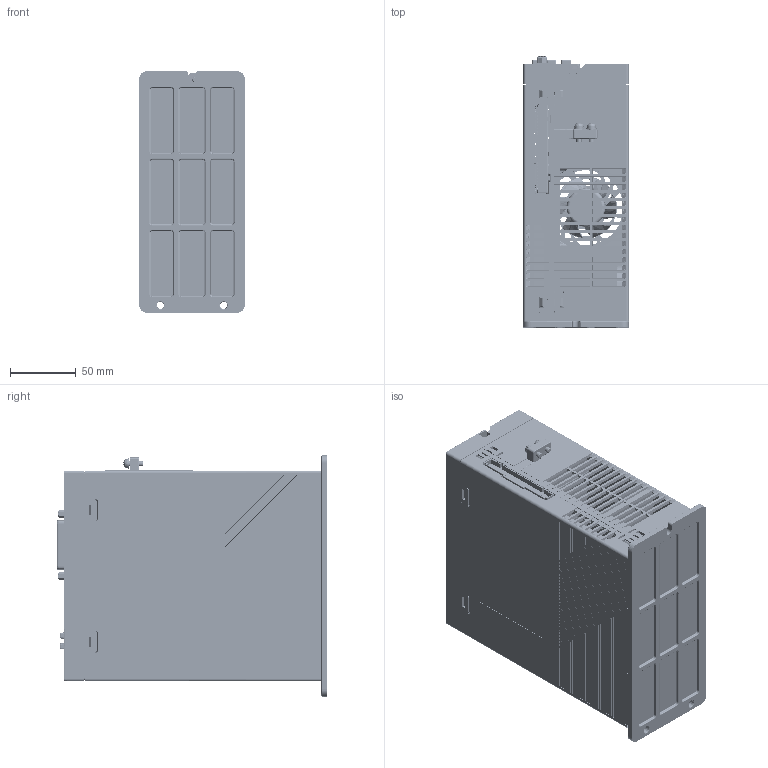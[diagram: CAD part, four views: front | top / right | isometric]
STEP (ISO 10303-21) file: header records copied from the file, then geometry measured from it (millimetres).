
FILE_DESCRIPTION((''),'2;1');
FILE_NAME('BD3E-AP_D_3000W_SW0001','2025-01-22T17:36:37',('wuyh130'),(''),'CREO PARAMETRIC BY PTC INC, 2021063','CREO PARAMETRIC BY PTC INC, 2021063','');
FILE_SCHEMA(('AUTOMOTIVE_DESIGN { 1 0 10303 214 1 1 1 1 }'));
Products named in the file (1): BD3E-AP_D_3000W_SW0001
Bounding box: 80 x 205.46 x 183 mm (x, y, z)
Surface area: 368203.4 mm2 (no closed solid volume)
Topology: 0 solids, 207 shells, 7554 faces, 24682 edges, 17091 vertices
Faces by surface type: plane 4256, cylinder 1964, bspline 558, cone 374, torus 260, sphere 73, extrusion 65, revolution 4
Entity records: 351896 total; most frequent: CARTESIAN_POINT 114465, ORIENTED_EDGE 42408, DIRECTION 39241, EDGE_CURVE 24603, VERTEX_POINT 17091, VECTOR 16772, LINE 16707, AXIS2_PLACEMENT_3D 11231
